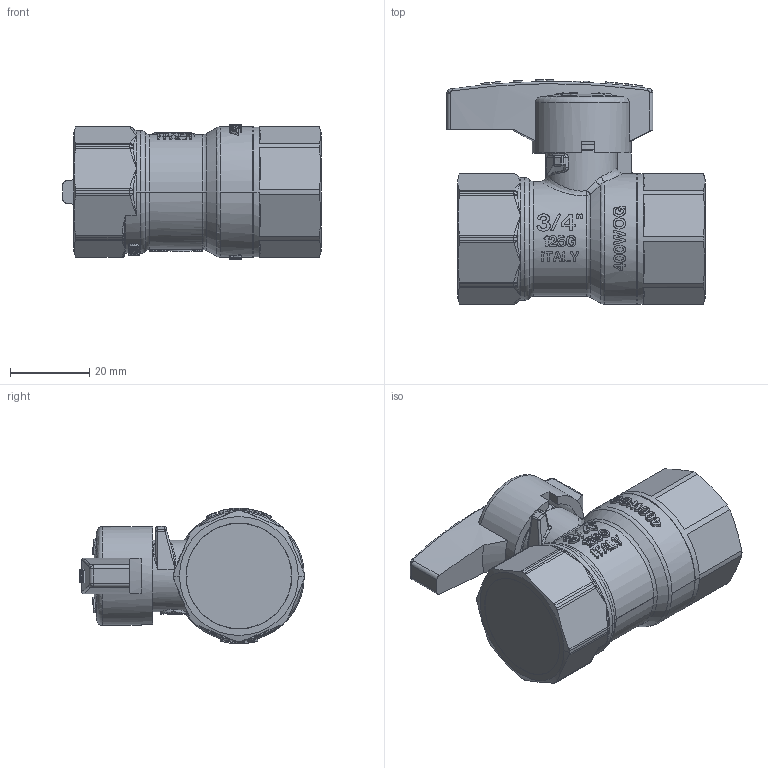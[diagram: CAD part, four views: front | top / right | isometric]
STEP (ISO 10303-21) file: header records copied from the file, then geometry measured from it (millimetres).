
FILE_DESCRIPTION((''),'2;1');
FILE_NAME('T205TD_3-4_ASM','2022-05-20T09:30:36',('Sergio.Dandrea'),(''),'CREO PARAMETRIC BY PTC INC, 2021164','CREO PARAMETRIC BY PTC INC, 2021164','');
FILE_SCHEMA(('CONFIG_CONTROL_DESIGN'));
Products named in the file (12): 87247; 87249; 87190; OR_105_6_5X1_45; ASTA_50-1-2_OR_ASM; 87191; SEDE_PTFE_F15; 87133; 88317; VITE_TESTA_CIL_PH_M4X7; AN_PTFE_SF_15; T205TD_3-4_ASM
Assembly tree (13 placements, depth 3):
  T205TD_3-4_ASM
    87247
    87249
    ASTA_50-1-2_OR_ASM
      87190
      OR_105_6_5X1_45  x2
    87191
    SEDE_PTFE_F15  x2
    87133
    88317
    VITE_TESTA_CIL_PH_M4X7
    AN_PTFE_SF_15
Bounding box: 65.2 x 56.7 x 34.2 mm (x, y, z)
Volume: 37244.6 mm3; surface area: 32497.2 mm2
Topology: 12 solids, 23 shells, 2243 faces, 6121 edges, 3986 vertices
Faces by surface type: extrusion 1332, plane 401, cylinder 233, cone 97, torus 76, bspline 59, sphere 29, revolution 16
Entity records: 86104 total; most frequent: CARTESIAN_POINT 35897, ORIENTED_EDGE 12087, DIRECTION 6449, EDGE_CURVE 6071, B_SPLINE_CURVE_WITH_KNOTS 4715, VERTEX_POINT 3981, VECTOR 3335, EDGE_LOOP 2326
